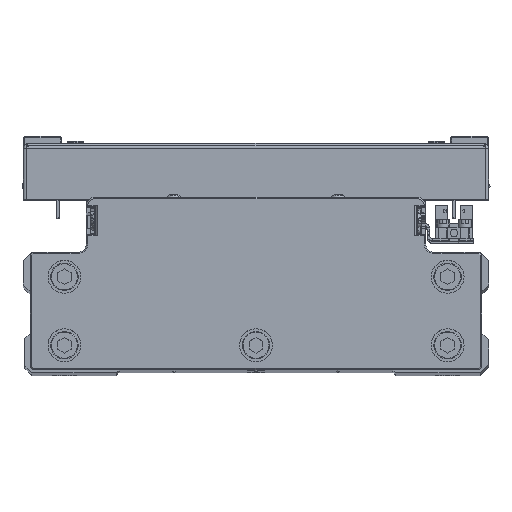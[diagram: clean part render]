
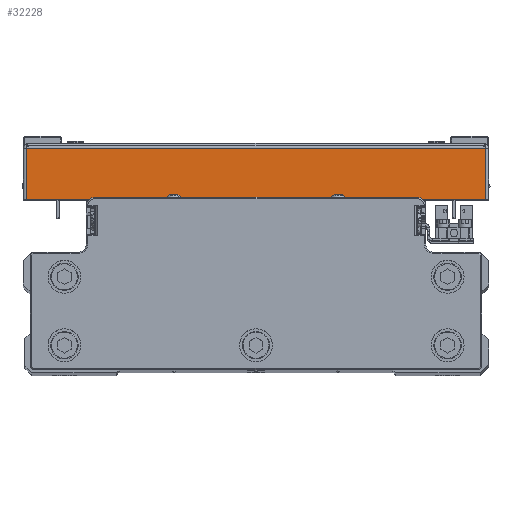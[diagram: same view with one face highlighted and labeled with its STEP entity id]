
A CAD part, top view. The second image highlights one B-rep face of the part: STEP entity #32228.
In plain terms, the highlighted planar face has unit normal (0, 0, 1) as drawn and (1, 0, 0) by its records, which use the part's own axes.
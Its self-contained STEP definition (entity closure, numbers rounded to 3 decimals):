
#274 = EDGE_CURVE ( 'NONE', #15682, #10381, #35987, .T. ) ;
#694 = CARTESIAN_POINT ( 'NONE',  ( 110., 19.5, 83.929 ) ) ;
#1308 = ORIENTED_EDGE ( 'NONE', *, *, #274, .T. ) ;
#1869 = FACE_OUTER_BOUND ( 'NONE', #15422, .T. ) ;
#2662 = CARTESIAN_POINT ( 'NONE',  ( 110., 0., -83.929 ) ) ;
#3135 = ORIENTED_EDGE ( 'NONE', *, *, #20771, .T. ) ;
#4892 = DIRECTION ( 'NONE',  ( 0., 0., 1. ) ) ;
#5074 = CARTESIAN_POINT ( 'NONE',  ( 110., 19.5, 0. ) ) ;
#7296 = VERTEX_POINT ( 'NONE', #33698 ) ;
#9090 = EDGE_CURVE ( 'NONE', #35436, #10381, #41068, .T. ) ;
#10169 = CARTESIAN_POINT ( 'NONE',  ( 110., 0., 83.929 ) ) ;
#10381 = VERTEX_POINT ( 'NONE', #694 ) ;
#10709 = VECTOR ( 'NONE', #18856, 1000. ) ;
#12237 = DIRECTION ( 'NONE',  ( 0., -1., 0. ) ) ;
#12592 = EDGE_CURVE ( 'NONE', #7296, #35436, #22056, .T. ) ;
#15422 = EDGE_LOOP ( 'NONE', ( #17841, #3135, #1308, #34837 ) ) ;
#15648 = PLANE ( 'NONE',  #17490 ) ;
#15682 = VERTEX_POINT ( 'NONE', #43681 ) ;
#16436 = DIRECTION ( 'NONE',  ( 0., 1., 0. ) ) ;
#17490 = AXIS2_PLACEMENT_3D ( 'NONE', #29382, #43126, #12237 ) ;
#17599 = VECTOR ( 'NONE', #4892, 1000. ) ;
#17841 = ORIENTED_EDGE ( 'NONE', *, *, #12592, .F. ) ;
#18856 = DIRECTION ( 'NONE',  ( 0., 0., 1. ) ) ;
#18943 = VECTOR ( 'NONE', #23930, 1000. ) ;
#20771 = EDGE_CURVE ( 'NONE', #7296, #15682, #33575, .T. ) ;
#22056 = LINE ( 'NONE', #35804, #17599 ) ;
#23930 = DIRECTION ( 'NONE',  ( 0., 1., 0. ) ) ;
#29382 = CARTESIAN_POINT ( 'NONE',  ( 110., 0., 0. ) ) ;
#32228 = ADVANCED_FACE ( 'NONE', ( #1869 ), #15648, .F. ) ;
#33575 = LINE ( 'NONE', #2662, #39711 ) ;
#33698 = CARTESIAN_POINT ( 'NONE',  ( 110., 1., -83.929 ) ) ;
#34837 = ORIENTED_EDGE ( 'NONE', *, *, #9090, .F. ) ;
#35436 = VERTEX_POINT ( 'NONE', #38107 ) ;
#35804 = CARTESIAN_POINT ( 'NONE',  ( 110., 1., 85. ) ) ;
#35987 = LINE ( 'NONE', #5074, #10709 ) ;
#38107 = CARTESIAN_POINT ( 'NONE',  ( 110., 1., 83.929 ) ) ;
#39711 = VECTOR ( 'NONE', #16436, 1000. ) ;
#41068 = LINE ( 'NONE', #10169, #18943 ) ;
#43126 = DIRECTION ( 'NONE',  ( -1., 0., 0. ) ) ;
#43681 = CARTESIAN_POINT ( 'NONE',  ( 110., 19.5, -83.929 ) ) ;
